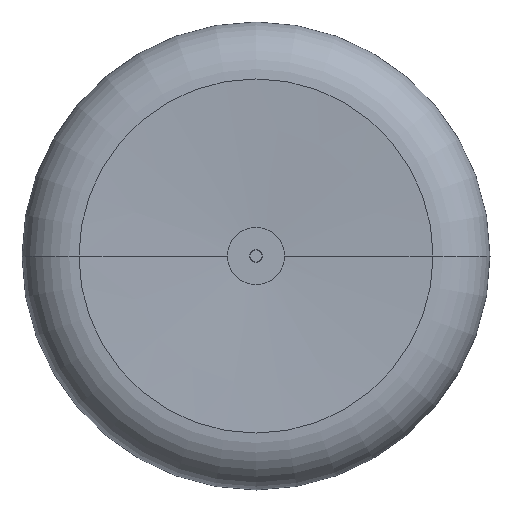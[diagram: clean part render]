
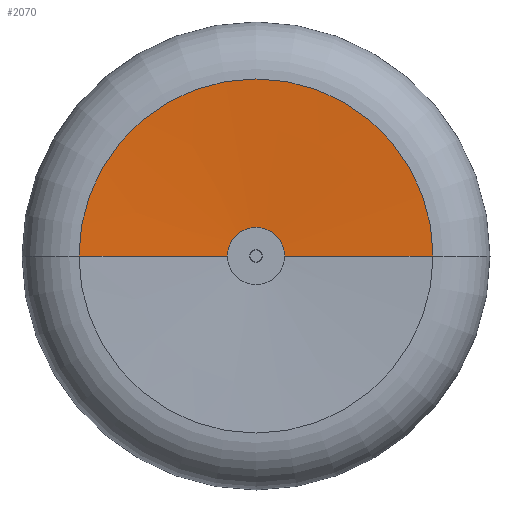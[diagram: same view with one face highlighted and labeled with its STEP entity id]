
A CAD part, front view. The second image highlights one B-rep face of the part: STEP entity #2070.
In plain terms, the highlighted conical face has half-angle 87.342 degrees and reference radius 280 mm.
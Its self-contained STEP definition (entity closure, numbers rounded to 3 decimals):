
#1550=CARTESIAN_POINT('',(0.,-190.187,0.));
#1560=DIRECTION('',(0.,1.,0.));
#1570=DIRECTION('',(1.,0.,0.));
#1580=AXIS2_PLACEMENT_3D('',#1550,#1560,#1570);
#1590=CIRCLE('',#1580,45.185);
#1600=CARTESIAN_POINT('',(45.185,-190.187,
0.));
#1610=VERTEX_POINT('',#1600);
#1620=CARTESIAN_POINT('',(-45.185,-190.187,0.));
#1630=VERTEX_POINT('',#1620);
#1660=EDGE_CURVE('',#1630,#1610,#1590,.T.);
#1760=CARTESIAN_POINT('',(0.,-201.089,0.));
#1770=DIRECTION('',(0.,-1.,0.));
#1780=DIRECTION('',(-1.,-0.,0.));
#1790=AXIS2_PLACEMENT_3D('',#1760,#1770,#1780);
#1800=CONICAL_SURFACE('',#1790,280.,1.524);
#1810=CARTESIAN_POINT('',(280.,-201.089,0.))
;
#1820=DIRECTION('',(0.999,-0.046,
0.));
#1830=VECTOR('',#1820,280.302);
#1840=LINE('',#1810,#1830);
#1850=CARTESIAN_POINT('',(280.,-201.089,0.));
#1860=VERTEX_POINT('',#1850);
#1870=EDGE_CURVE('',#1610,#1860,#1840,.T.);
#1880=ORIENTED_EDGE('',*,*,#1870,.T.);
#1890=ORIENTED_EDGE('',*,*,#1660,.T.);
#1900=CARTESIAN_POINT('',(-280.,-201.089,0.));
#1910=DIRECTION('',(-0.999,-0.046,0.));
#1920=VECTOR('',#1910,280.302);
#1930=LINE('',#1900,#1920);
#1940=CARTESIAN_POINT('',(-280.,-201.089,0.));
#1950=VERTEX_POINT('',#1940);
#1960=EDGE_CURVE('',#1630,#1950,#1930,.T.);
#1970=ORIENTED_EDGE('',*,*,#1960,.F.);
#1980=CARTESIAN_POINT('',(0.,-201.089,0.));
#1990=DIRECTION('',(0.,1.,0.));
#2000=DIRECTION('',(1.,0.,0.));
#2010=AXIS2_PLACEMENT_3D('',#1980,#1990,#2000);
#2020=CIRCLE('',#2010,280.);
#2030=EDGE_CURVE('',#1950,#1860,#2020,.T.);
#2040=ORIENTED_EDGE('',*,*,#2030,.F.);
#2050=EDGE_LOOP('',(#2040,#1970,#1890,#1880));
#2060=FACE_OUTER_BOUND('',#2050,.T.);
#2070=ADVANCED_FACE('',(#2060),#1800,.F.);
